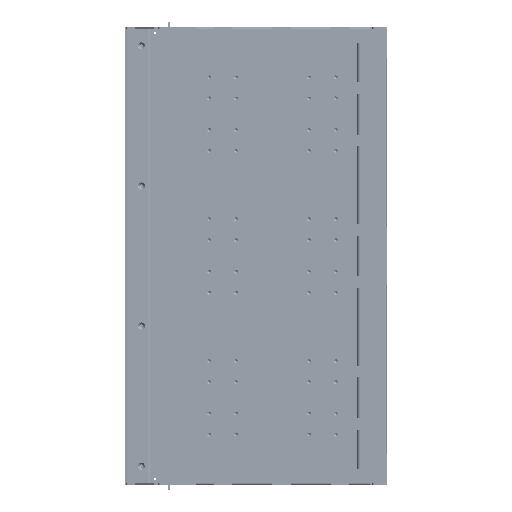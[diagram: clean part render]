
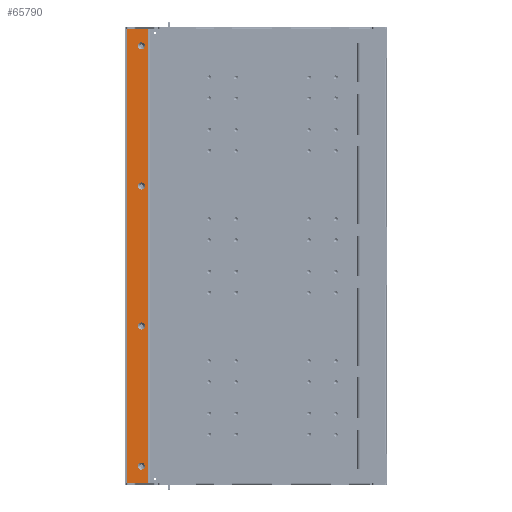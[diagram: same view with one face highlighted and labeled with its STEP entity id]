
A CAD part, left-side view. The second image highlights one B-rep face of the part: STEP entity #65790.
In plain terms, the highlighted planar face has unit normal (-1, 0, 0).
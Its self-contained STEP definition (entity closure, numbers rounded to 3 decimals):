
#4932 = DIRECTION ( 'NONE',  ( 1., 0., 0. ) ) ;
#8381 = CARTESIAN_POINT ( 'NONE',  ( -638.698, 391.589, 307.153 ) ) ;
#8873 = DIRECTION ( 'NONE',  ( 0., 0., -1. ) ) ;
#20912 = EDGE_CURVE ( 'NONE', #104954, #81326, #83298, .T. ) ;
#24926 = ORIENTED_EDGE ( 'NONE', *, *, #157050, .T. ) ;
#27573 = CARTESIAN_POINT ( 'NONE',  ( -638.698, 403.789, 284.453 ) ) ;
#32407 = CARTESIAN_POINT ( 'NONE',  ( -638.698, 391.589, -470.447 ) ) ;
#32730 = DIRECTION ( 'NONE',  ( 0., 0., -1. ) ) ;
#33987 = CARTESIAN_POINT ( 'NONE',  ( -638.698, 429.789, 307.153 ) ) ;
#35711 = DIRECTION ( 'NONE',  ( 1., 0., 0. ) ) ;
#36686 = FACE_OUTER_BOUND ( 'NONE', #151486, .T. ) ;
#41883 = CIRCLE ( 'NONE', #166016, 6.1 ) ;
#46753 = CARTESIAN_POINT ( 'NONE',  ( -638.698, 429.789, -470.447 ) ) ;
#51146 = LINE ( 'NONE', #76609, #235242 ) ;
#52279 = DIRECTION ( 'NONE',  ( 1., 0., 0. ) ) ;
#58831 = ORIENTED_EDGE ( 'NONE', *, *, #266140, .T. ) ;
#64741 = DIRECTION ( 'NONE',  ( 0., 0., -1. ) ) ;
#65225 = CIRCLE ( 'NONE', #161425, 6.1 ) ;
#65790 = ADVANCED_FACE ( 'NONE', ( #36686, #186995, #193435, #190221, #227076 ), #258606, .F. ) ;
#68343 = EDGE_CURVE ( 'NONE', #106647, #238150, #130749, .T. ) ;
#73709 = EDGE_LOOP ( 'NONE', ( #181674, #58831 ) ) ;
#74377 = CARTESIAN_POINT ( 'NONE',  ( -638.698, 403.789, 38.353 ) ) ;
#76609 = CARTESIAN_POINT ( 'NONE',  ( -638.698, 391.589, 307.153 ) ) ;
#78820 = DIRECTION ( 'NONE',  ( 0., 0., -1. ) ) ;
#81326 = VERTEX_POINT ( 'NONE', #159876 ) ;
#83298 = CIRCLE ( 'NONE', #200352, 6.1 ) ;
#85323 = VECTOR ( 'NONE', #239343, 1000. ) ;
#86969 = VERTEX_POINT ( 'NONE', #253532 ) ;
#88512 = CARTESIAN_POINT ( 'NONE',  ( -638.698, 403.789, -447.747 ) ) ;
#91166 = ORIENTED_EDGE ( 'NONE', *, *, #94126, .T. ) ;
#94126 = EDGE_CURVE ( 'NONE', #224724, #86969, #134961, .T. ) ;
#95982 = DIRECTION ( 'NONE',  ( 0., 0., -1. ) ) ;
#97580 = ORIENTED_EDGE ( 'NONE', *, *, #165765, .T. ) ;
#98217 = ORIENTED_EDGE ( 'NONE', *, *, #177929, .T. ) ;
#99429 = CARTESIAN_POINT ( 'NONE',  ( -638.698, 403.789, 278.353 ) ) ;
#104954 = VERTEX_POINT ( 'NONE', #27573 ) ;
#106455 = ORIENTED_EDGE ( 'NONE', *, *, #20912, .T. ) ;
#106647 = VERTEX_POINT ( 'NONE', #191694 ) ;
#109096 = ORIENTED_EDGE ( 'NONE', *, *, #207188, .T. ) ;
#109836 = CARTESIAN_POINT ( 'NONE',  ( -638.698, 403.789, 32.253 ) ) ;
#110166 = EDGE_CURVE ( 'NONE', #156010, #170261, #51146, .T. ) ;
#112326 = ORIENTED_EDGE ( 'NONE', *, *, #68343, .T. ) ;
#117172 = DIRECTION ( 'NONE',  ( 1., 0., 0. ) ) ;
#118403 = CARTESIAN_POINT ( 'NONE',  ( -638.698, 428.789, 307.153 ) ) ;
#120294 = DIRECTION ( 'NONE',  ( 0., 0., -1. ) ) ;
#122562 = CARTESIAN_POINT ( 'NONE',  ( -638.698, 403.789, -441.647 ) ) ;
#125223 = EDGE_CURVE ( 'NONE', #184575, #177671, #264038, .T. ) ;
#125379 = DIRECTION ( 'NONE',  ( 0., 0., -1. ) ) ;
#130749 = CIRCLE ( 'NONE', #223561, 6.1 ) ;
#133265 = VERTEX_POINT ( 'NONE', #185446 ) ;
#134961 = LINE ( 'NONE', #118403, #242136 ) ;
#141330 = DIRECTION ( 'NONE',  ( 1., 0., 0. ) ) ;
#142881 = LINE ( 'NONE', #33987, #260302 ) ;
#142992 = DIRECTION ( 'NONE',  ( 0., 0., -1. ) ) ;
#149803 = DIRECTION ( 'NONE',  ( 1., 0., 0. ) ) ;
#151486 = EDGE_LOOP ( 'NONE', ( #252457, #91166, #24926, #242355 ) ) ;
#153783 = CARTESIAN_POINT ( 'NONE',  ( -638.698, 403.789, -207.747 ) ) ;
#153959 = CARTESIAN_POINT ( 'NONE',  ( -638.698, 428.789, 307.153 ) ) ;
#156010 = VERTEX_POINT ( 'NONE', #32407 ) ;
#157050 = EDGE_CURVE ( 'NONE', #86969, #156010, #178801, .T. ) ;
#159074 = EDGE_LOOP ( 'NONE', ( #112326, #97580 ) ) ;
#159876 = CARTESIAN_POINT ( 'NONE',  ( -638.698, 403.789, 272.253 ) ) ;
#160583 = CARTESIAN_POINT ( 'NONE',  ( -638.698, 403.789, -441.647 ) ) ;
#161425 = AXIS2_PLACEMENT_3D ( 'NONE', #74377, #223906, #95982 ) ;
#165765 = EDGE_CURVE ( 'NONE', #238150, #106647, #41883, .T. ) ;
#166016 = AXIS2_PLACEMENT_3D ( 'NONE', #174012, #149803, #64741 ) ;
#166278 = ORIENTED_EDGE ( 'NONE', *, *, #125223, .T. ) ;
#167668 = EDGE_LOOP ( 'NONE', ( #98217, #166278 ) ) ;
#170261 = VERTEX_POINT ( 'NONE', #8381 ) ;
#171595 = CARTESIAN_POINT ( 'NONE',  ( -638.698, 403.789, 44.453 ) ) ;
#174012 = CARTESIAN_POINT ( 'NONE',  ( -638.698, 403.789, -201.647 ) ) ;
#175768 = CARTESIAN_POINT ( 'NONE',  ( -638.698, 403.789, 38.353 ) ) ;
#175931 = AXIS2_PLACEMENT_3D ( 'NONE', #216402, #192124, #218205 ) ;
#177671 = VERTEX_POINT ( 'NONE', #171595 ) ;
#177929 = EDGE_CURVE ( 'NONE', #177671, #184575, #65225, .T. ) ;
#178801 = LINE ( 'NONE', #46753, #85323 ) ;
#180961 = EDGE_CURVE ( 'NONE', #133265, #258030, #223067, .T. ) ;
#181674 = ORIENTED_EDGE ( 'NONE', *, *, #180961, .T. ) ;
#182388 = AXIS2_PLACEMENT_3D ( 'NONE', #122562, #35711, #142992 ) ;
#184575 = VERTEX_POINT ( 'NONE', #109836 ) ;
#185238 = DIRECTION ( 'NONE',  ( 0., -1., 0. ) ) ;
#185446 = CARTESIAN_POINT ( 'NONE',  ( -638.698, 403.789, -435.547 ) ) ;
#186995 = FACE_BOUND ( 'NONE', #250258, .T. ) ;
#190221 = FACE_BOUND ( 'NONE', #159074, .T. ) ;
#191694 = CARTESIAN_POINT ( 'NONE',  ( -638.698, 403.789, -195.547 ) ) ;
#192124 = DIRECTION ( 'NONE',  ( 1., 0., 0. ) ) ;
#192391 = AXIS2_PLACEMENT_3D ( 'NONE', #175768, #4932, #197278 ) ;
#193435 = FACE_BOUND ( 'NONE', #167668, .T. ) ;
#196619 = AXIS2_PLACEMENT_3D ( 'NONE', #99429, #141330, #78820 ) ;
#197278 = DIRECTION ( 'NONE',  ( 0., 0., -1. ) ) ;
#200352 = AXIS2_PLACEMENT_3D ( 'NONE', #273175, #211369, #125379 ) ;
#203659 = DIRECTION ( 'NONE',  ( 0., 0., 1. ) ) ;
#207188 = EDGE_CURVE ( 'NONE', #81326, #104954, #257105, .T. ) ;
#207285 = EDGE_CURVE ( 'NONE', #224724, #170261, #142881, .T. ) ;
#211369 = DIRECTION ( 'NONE',  ( 1., 0., 0. ) ) ;
#216402 = CARTESIAN_POINT ( 'NONE',  ( -638.698, 429.789, 307.153 ) ) ;
#218205 = DIRECTION ( 'NONE',  ( 0., 1., 0. ) ) ;
#223067 = CIRCLE ( 'NONE', #182388, 6.1 ) ;
#223561 = AXIS2_PLACEMENT_3D ( 'NONE', #245335, #117172, #8873 ) ;
#223906 = DIRECTION ( 'NONE',  ( 1., 0., 0. ) ) ;
#224724 = VERTEX_POINT ( 'NONE', #153959 ) ;
#227076 = FACE_BOUND ( 'NONE', #73709, .T. ) ;
#235242 = VECTOR ( 'NONE', #203659, 1000. ) ;
#235420 = CIRCLE ( 'NONE', #265709, 6.1 ) ;
#238150 = VERTEX_POINT ( 'NONE', #153783 ) ;
#239343 = DIRECTION ( 'NONE',  ( 0., -1., 0. ) ) ;
#242136 = VECTOR ( 'NONE', #120294, 1000. ) ;
#242355 = ORIENTED_EDGE ( 'NONE', *, *, #110166, .T. ) ;
#245335 = CARTESIAN_POINT ( 'NONE',  ( -638.698, 403.789, -201.647 ) ) ;
#250258 = EDGE_LOOP ( 'NONE', ( #106455, #109096 ) ) ;
#252457 = ORIENTED_EDGE ( 'NONE', *, *, #207285, .F. ) ;
#253532 = CARTESIAN_POINT ( 'NONE',  ( -638.698, 428.789, -470.447 ) ) ;
#257105 = CIRCLE ( 'NONE', #196619, 6.1 ) ;
#258030 = VERTEX_POINT ( 'NONE', #88512 ) ;
#258606 = PLANE ( 'NONE',  #175931 ) ;
#260302 = VECTOR ( 'NONE', #185238, 1000. ) ;
#264038 = CIRCLE ( 'NONE', #192391, 6.1 ) ;
#265709 = AXIS2_PLACEMENT_3D ( 'NONE', #160583, #52279, #32730 ) ;
#266140 = EDGE_CURVE ( 'NONE', #258030, #133265, #235420, .T. ) ;
#273175 = CARTESIAN_POINT ( 'NONE',  ( -638.698, 403.789, 278.353 ) ) ;
